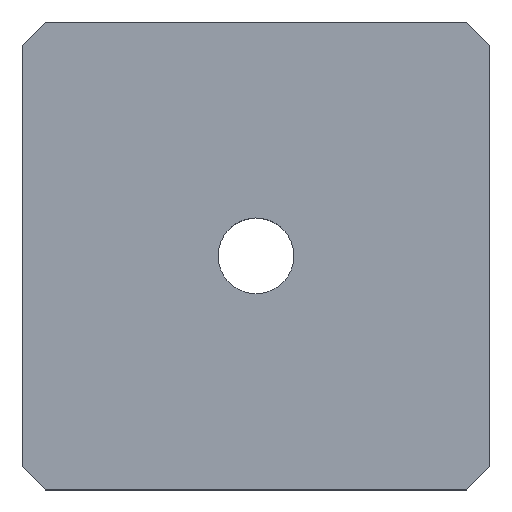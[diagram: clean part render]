
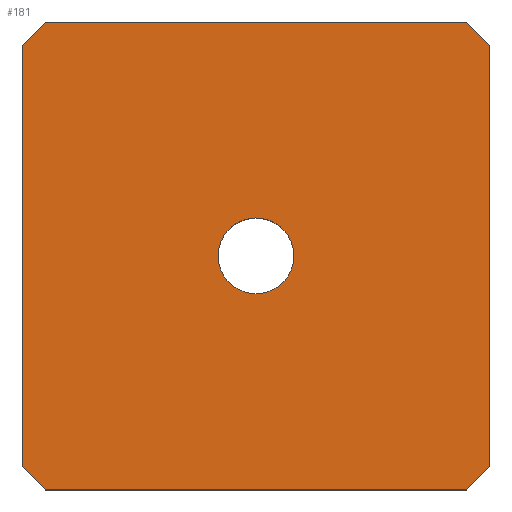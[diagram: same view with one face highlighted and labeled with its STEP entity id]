
A CAD part, top view. The second image highlights one B-rep face of the part: STEP entity #181.
In plain terms, the highlighted planar face has unit normal (0, 0, 1).
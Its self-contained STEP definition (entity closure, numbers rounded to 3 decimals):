
#73=CARTESIAN_POINT('',(19.,20.0,5.0));
#74=VERTEX_POINT('',#73);
#75=CARTESIAN_POINT('',(20.,19.0,5.0));
#76=VERTEX_POINT('',#75);
#77=CARTESIAN_POINT('',(19.,20.,5.0));
#78=DIRECTION('',(0.707,-0.707,0.0));
#79=VECTOR('',#78,1.414);
#80=LINE('',#77,#79);
#81=EDGE_CURVE('',#74,#76,#80,.T.);
#108=CARTESIAN_POINT('',(10.,10.,5.0));
#109=DIRECTION('',(0.0,0.0,1.0));
#110=DIRECTION('',(1.0,0.0,0.0));
#111=AXIS2_PLACEMENT_3D('',#108,#109,#110);
#112=PLANE('',#111);
#113=ORIENTED_EDGE('',*,*,#81,.F.);
#114=CARTESIAN_POINT('',(1.,20.,5.0));
#115=VERTEX_POINT('',#114);
#116=CARTESIAN_POINT('',(1.,20.,5.0));
#117=DIRECTION('',(1.0,0.0,0.0));
#118=VECTOR('',#117,18.0);
#119=LINE('',#116,#118);
#120=EDGE_CURVE('',#115,#74,#119,.T.);
#121=ORIENTED_EDGE('',*,*,#120,.F.);
#122=CARTESIAN_POINT('',(0.,19.,5.0));
#123=VERTEX_POINT('',#122);
#124=CARTESIAN_POINT('',(0.,19.,5.0));
#125=DIRECTION('',(0.707,0.707,0.0));
#126=VECTOR('',#125,1.414);
#127=LINE('',#124,#126);
#128=EDGE_CURVE('',#123,#115,#127,.T.);
#129=ORIENTED_EDGE('',*,*,#128,.F.);
#130=CARTESIAN_POINT('',(0.,1.,5.0));
#131=VERTEX_POINT('',#130);
#132=CARTESIAN_POINT('',(0.,1.0,5.0));
#133=DIRECTION('',(0.0,1.0,0.0));
#134=VECTOR('',#133,18.);
#135=LINE('',#132,#134);
#136=EDGE_CURVE('',#131,#123,#135,.T.);
#137=ORIENTED_EDGE('',*,*,#136,.F.);
#138=CARTESIAN_POINT('',(1.,0.0,5.0));
#139=VERTEX_POINT('',#138);
#140=CARTESIAN_POINT('',(1.,0.,5.0));
#141=DIRECTION('',(-0.707,0.707,0.0));
#142=VECTOR('',#141,1.414);
#143=LINE('',#140,#142);
#144=EDGE_CURVE('',#139,#131,#143,.T.);
#145=ORIENTED_EDGE('',*,*,#144,.F.);
#146=CARTESIAN_POINT('',(19.0,0.0,5.0));
#147=VERTEX_POINT('',#146);
#148=CARTESIAN_POINT('',(19.0,0.0,5.0));
#149=DIRECTION('',(-1.0,0.0,0.0));
#150=VECTOR('',#149,18.0);
#151=LINE('',#148,#150);
#152=EDGE_CURVE('',#147,#139,#151,.T.);
#153=ORIENTED_EDGE('',*,*,#152,.F.);
#154=CARTESIAN_POINT('',(20.0,1.,5.0));
#155=VERTEX_POINT('',#154);
#156=CARTESIAN_POINT('',(20.0,1.,5.0));
#157=DIRECTION('',(-0.707,-0.707,0.0));
#158=VECTOR('',#157,1.414);
#159=LINE('',#156,#158);
#160=EDGE_CURVE('',#155,#147,#159,.T.);
#161=ORIENTED_EDGE('',*,*,#160,.F.);
#162=CARTESIAN_POINT('',(20.,19.0,5.0));
#163=DIRECTION('',(0.0,-1.0,0.0));
#164=VECTOR('',#163,18.0);
#165=LINE('',#162,#164);
#166=EDGE_CURVE('',#76,#155,#165,.T.);
#167=ORIENTED_EDGE('',*,*,#166,.F.);
#168=EDGE_LOOP('',(#113,#121,#129,#137,#145,#153,#161,#167));
#169=FACE_OUTER_BOUND('',#168,.T.);
#170=CARTESIAN_POINT('',(11.621,10.,5.0));
#171=VERTEX_POINT('',#170);
#172=CARTESIAN_POINT('',(10.,10.,5.0));
#173=DIRECTION('',(0.0,0.0,-1.0));
#174=DIRECTION('',(1.0,0.0,0.0));
#175=AXIS2_PLACEMENT_3D('',#172,#173,#174);
#176=CIRCLE('',#175,1.621);
#177=EDGE_CURVE('',#171,#171,#176,.T.);
#178=ORIENTED_EDGE('',*,*,#177,.T.);
#179=EDGE_LOOP('',(#178));
#180=FACE_BOUND('',#179,.T.);
#181=ADVANCED_FACE('',(#169,#180),#112,.T.);
